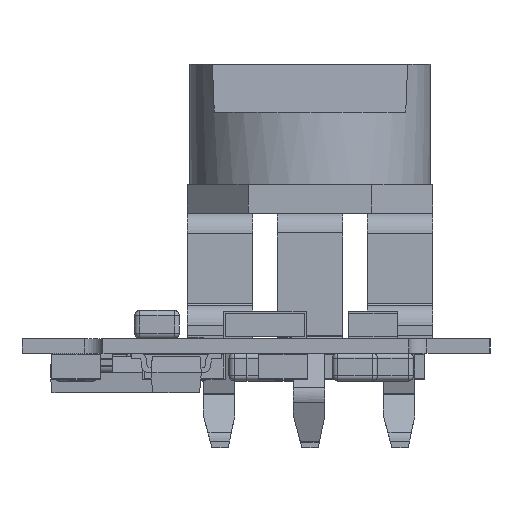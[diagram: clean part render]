
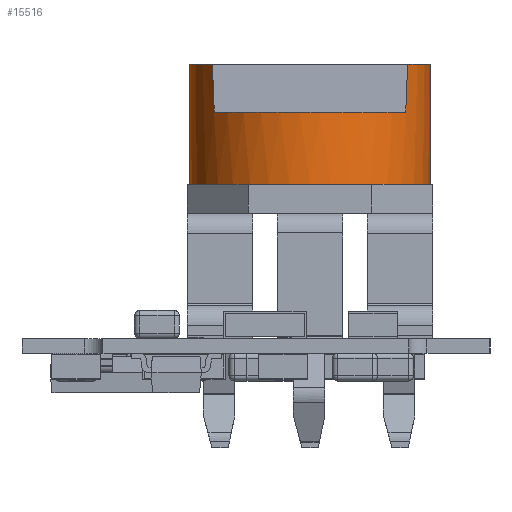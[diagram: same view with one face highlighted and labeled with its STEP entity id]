
A CAD part, left-side view. The second image highlights one B-rep face of the part: STEP entity #15516.
In plain terms, the highlighted cylindrical face has radius 3.34 mm (diameter 6.68 mm), a partial arc.
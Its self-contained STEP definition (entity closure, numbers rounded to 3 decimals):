
#15516 = ADVANCED_FACE('',(#15517),#15589,.T.);
#15517 = FACE_BOUND('',#15518,.T.);
#15518 = EDGE_LOOP('',(#15519,#15530,#15538,#15547,#15555,#15564,#15573,
    #15582));
#15519 = ORIENTED_EDGE('',*,*,#15520,.T.);
#15520 = EDGE_CURVE('',#15521,#15523,#15525,.T.);
#15521 = VERTEX_POINT('',#15522);
#15522 = CARTESIAN_POINT('',(2.712,1.95,7.62));
#15523 = VERTEX_POINT('',#15524);
#15524 = CARTESIAN_POINT('',(3.34,0.,7.62));
#15525 = CIRCLE('',#15526,3.34);
#15526 = AXIS2_PLACEMENT_3D('',#15527,#15528,#15529);
#15527 = CARTESIAN_POINT('',(0.,0.,
    7.62));
#15528 = DIRECTION('',(0.,0.,-1.));
#15529 = DIRECTION('',(-1.,0.,0.));
#15530 = ORIENTED_EDGE('',*,*,#15531,.T.);
#15531 = EDGE_CURVE('',#15523,#15532,#15534,.T.);
#15532 = VERTEX_POINT('',#15533);
#15533 = CARTESIAN_POINT('',(3.34,0.,
    4.28));
#15534 = LINE('',#15535,#15536);
#15535 = CARTESIAN_POINT('',(3.34,0.,
    4.481));
#15536 = VECTOR('',#15537,1.);
#15537 = DIRECTION('',(0.,0.,-1.));
#15538 = ORIENTED_EDGE('',*,*,#15539,.T.);
#15539 = EDGE_CURVE('',#15532,#15540,#15542,.T.);
#15540 = VERTEX_POINT('',#15541);
#15541 = CARTESIAN_POINT('',(-3.34,0.,
    4.28));
#15542 = CIRCLE('',#15543,3.34);
#15543 = AXIS2_PLACEMENT_3D('',#15544,#15545,#15546);
#15544 = CARTESIAN_POINT('',(0.,0.,
    4.28));
#15545 = DIRECTION('',(0.,0.,1.));
#15546 = DIRECTION('',(-1.,0.,0.));
#15547 = ORIENTED_EDGE('',*,*,#15548,.F.);
#15548 = EDGE_CURVE('',#15549,#15540,#15551,.T.);
#15549 = VERTEX_POINT('',#15550);
#15550 = CARTESIAN_POINT('',(-3.34,0.,7.62));
#15551 = LINE('',#15552,#15553);
#15552 = CARTESIAN_POINT('',(-3.34,0.,
    4.481));
#15553 = VECTOR('',#15554,1.);
#15554 = DIRECTION('',(0.,0.,-1.));
#15555 = ORIENTED_EDGE('',*,*,#15556,.T.);
#15556 = EDGE_CURVE('',#15549,#15557,#15559,.T.);
#15557 = VERTEX_POINT('',#15558);
#15558 = CARTESIAN_POINT('',(-2.712,1.95,7.62));
#15559 = CIRCLE('',#15560,3.34);
#15560 = AXIS2_PLACEMENT_3D('',#15561,#15562,#15563);
#15561 = CARTESIAN_POINT('',(0.,0.,
    7.62));
#15562 = DIRECTION('',(0.,0.,-1.));
#15563 = DIRECTION('',(-1.,0.,0.));
#15564 = ORIENTED_EDGE('',*,*,#15565,.F.);
#15565 = EDGE_CURVE('',#15566,#15557,#15568,.T.);
#15566 = VERTEX_POINT('',#15567);
#15567 = CARTESIAN_POINT('',(-2.659,2.022,
    6.291));
#15568 = ( BOUNDED_CURVE() B_SPLINE_CURVE(3,(#15569,#15570,#15571,#15572
),.UNSPECIFIED.,.F.,.F.) B_SPLINE_CURVE_WITH_KNOTS((4,4),(0.921,
0.947),.PIECEWISE_BEZIER_KNOTS.) CURVE() 
GEOMETRIC_REPRESENTATION_ITEM() RATIONAL_B_SPLINE_CURVE((1.,
1.,1.,1.)) REPRESENTATION_ITEM('') );
#15569 = CARTESIAN_POINT('',(-2.659,2.022,
    6.291));
#15570 = CARTESIAN_POINT('',(-2.677,1.998,
    6.73));
#15571 = CARTESIAN_POINT('',(-2.695,1.974,
    7.173));
#15572 = CARTESIAN_POINT('',(-2.712,1.95,7.62));
#15573 = ORIENTED_EDGE('',*,*,#15574,.T.);
#15574 = EDGE_CURVE('',#15566,#15575,#15577,.T.);
#15575 = VERTEX_POINT('',#15576);
#15576 = CARTESIAN_POINT('',(2.659,2.022,6.291
    ));
#15577 = CIRCLE('',#15578,3.34);
#15578 = AXIS2_PLACEMENT_3D('',#15579,#15580,#15581);
#15579 = CARTESIAN_POINT('',(0.,0.,
    6.291));
#15580 = DIRECTION('',(0.,0.,-1.));
#15581 = DIRECTION('',(-1.,0.,0.));
#15582 = ORIENTED_EDGE('',*,*,#15583,.F.);
#15583 = EDGE_CURVE('',#15521,#15575,#15584,.T.);
#15584 = ( BOUNDED_CURVE() B_SPLINE_CURVE(3,(#15585,#15586,#15587,#15588
),.UNSPECIFIED.,.F.,.F.) B_SPLINE_CURVE_WITH_KNOTS((4,4),(5.336,
5.362),.PIECEWISE_BEZIER_KNOTS.) CURVE() 
GEOMETRIC_REPRESENTATION_ITEM() RATIONAL_B_SPLINE_CURVE((1.,
1.,1.,1.)) REPRESENTATION_ITEM('') );
#15585 = CARTESIAN_POINT('',(2.712,1.95,7.62));
#15586 = CARTESIAN_POINT('',(2.695,1.974,
    7.173));
#15587 = CARTESIAN_POINT('',(2.677,1.998,6.73
    ));
#15588 = CARTESIAN_POINT('',(2.659,2.022,6.291
    ));
#15589 = CYLINDRICAL_SURFACE('',#15590,3.34);
#15590 = AXIS2_PLACEMENT_3D('',#15591,#15592,#15593);
#15591 = CARTESIAN_POINT('',(0.,0.,
    4.481));
#15592 = DIRECTION('',(0.,0.,-1.));
#15593 = DIRECTION('',(-1.,0.,0.));
